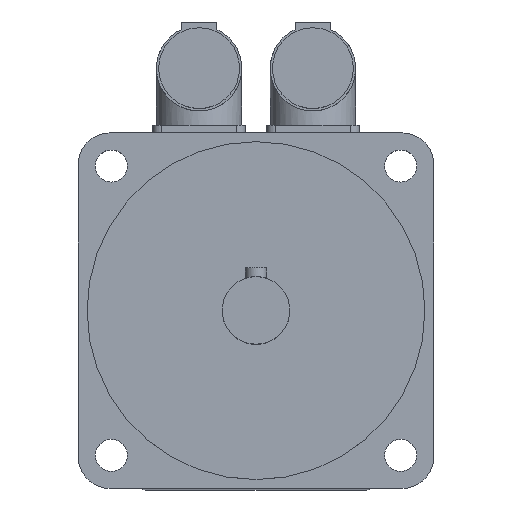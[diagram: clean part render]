
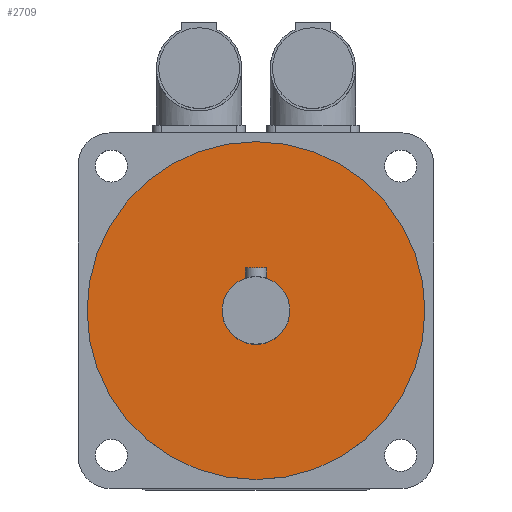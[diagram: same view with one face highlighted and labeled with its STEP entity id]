
A CAD part, top view. The second image highlights one B-rep face of the part: STEP entity #2709.
In plain terms, the highlighted planar face has unit normal (0, 0, 1).
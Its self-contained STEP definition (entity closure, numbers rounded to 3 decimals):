
#44=FACE_BOUND('',#455,.T.);
#72=CIRCLE('',#2874,9.5);
#73=CIRCLE('',#2877,47.5);
#289=FACE_OUTER_BOUND('',#454,.T.);
#454=EDGE_LOOP('',(#1842));
#455=EDGE_LOOP('',(#1843));
#1150=VERTEX_POINT('',#4096);
#1151=VERTEX_POINT('',#4100);
#1420=EDGE_CURVE('',#1150,#1150,#72,.T.);
#1421=EDGE_CURVE('',#1151,#1151,#73,.T.);
#1842=ORIENTED_EDGE('',*,*,#1421,.T.);
#1843=ORIENTED_EDGE('',*,*,#1420,.T.);
#2629=PLANE('',#2879);
#2709=ADVANCED_FACE('',(#289,#44),#2629,.F.);
#2874=AXIS2_PLACEMENT_3D('',#4097,#3197,#3198);
#2877=AXIS2_PLACEMENT_3D('',#4101,#3203,#3204);
#2879=AXIS2_PLACEMENT_3D('',#4104,#3207,#3208);
#3197=DIRECTION('center_axis',(0.,0.,-1.));
#3198=DIRECTION('ref_axis',(-1.,0.,0.));
#3203=DIRECTION('center_axis',(0.,0.,
1.));
#3204=DIRECTION('ref_axis',(-1.,0.,0.));
#3207=DIRECTION('center_axis',(0.,0.,-1.));
#3208=DIRECTION('ref_axis',(-1.,0.,0.));
#4096=CARTESIAN_POINT('',(9.5,0.,226.));
#4097=CARTESIAN_POINT('Origin',(0.,0.,
226.));
#4100=CARTESIAN_POINT('',(47.5,0.,226.));
#4101=CARTESIAN_POINT('Origin',(0.,0.,
226.));
#4104=CARTESIAN_POINT('Origin',(0.,0.,
226.));
